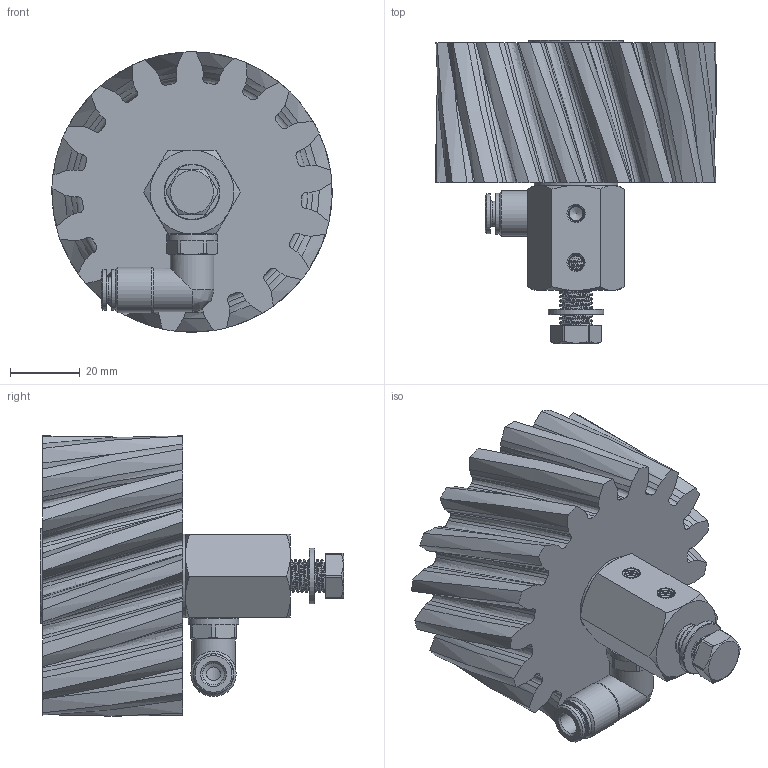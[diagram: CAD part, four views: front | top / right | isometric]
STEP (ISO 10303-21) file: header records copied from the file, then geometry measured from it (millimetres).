
FILE_DESCRIPTION (( 'STEP AP214' ), '1' );
FILE_NAME ('012_13_04_40_17BLZ.STEP', '2026-04-14T09:01:33', ( '' ), ( '' ), 'SwSTEP 2.0', 'SolidWorks 2022', '' );
FILE_SCHEMA (( 'AUTOMOTIVE_DESIGN' ));
Length unit declared in the file: millimetre
Products named in the file (13): 012_13_04_40_17BLZ; 12012_06_00_Scheibe-CRS-VA.SLDASM; RH202242; 012_06_Senkschraube; U_Scheibe_8,4; 012_13b_01_winklige_Achse_lang_M8_1; RIVOLUZIONE_0_2; 12012_06_01_Scheibe-CRS-VA_27.SLDASM; OR 7.2X1.9_1; Modul_4_S_L; DR6-C_HDX_25.07.16_1; Schraube_M8_20; H202242_HDS022_6_M10X1_08.05.17(1)
Assembly tree (12 placements, depth 3):
  012_13_04_40_17BLZ
    012_13b_01_winklige_Achse_lang_M8_1
    Schraube_M8_20
    U_Scheibe_8,4
    H202242_HDS022_6_M10X1_08.05.17(1)
      OR 7.2X1.9_1
      RH202242
      DR6-C_HDX_25.07.16_1
      RIVOLUZIONE_0_2
    12012_06_00_Scheibe-CRS-VA.SLDASM
    12012_06_01_Scheibe-CRS-VA_27.SLDASM
    012_06_Senkschraube
    Modul_4_S_L
Bounding box: 80.17 x 86.9 x 80.18 mm (x, y, z)
Volume: 184665.7 mm3; surface area: 39509.7 mm2
Topology: 11 solids, 11 shells, 714 faces, 1991 edges, 1332 vertices
Faces by surface type: plane 317, bspline 269, cylinder 72, cone 53, torus 3
Full cylindrical faces by diameter (mm): 3 x1, 4 x2, 6 x1, 6.2 x1, 6.3 x1, 6.5 x1, 7.2 x1, 8.4 x1, 8.5 x1, 9 x10, 9.9 x1, 10 x3, 10.1 x2, 10.3 x1, 11.5 x1, 11.7 x1, 12.5 x2, 13 x1, 14.5 x1, 16 x1, 24 x1, 27 x1
Entity records: 83125 total; most frequent: CARTESIAN_POINT 65960, ORIENTED_EDGE 3690, DIRECTION 2456, EDGE_CURVE 1845, VERTEX_POINT 1267, LINE 1062, VECTOR 1062, EDGE_LOOP 828
